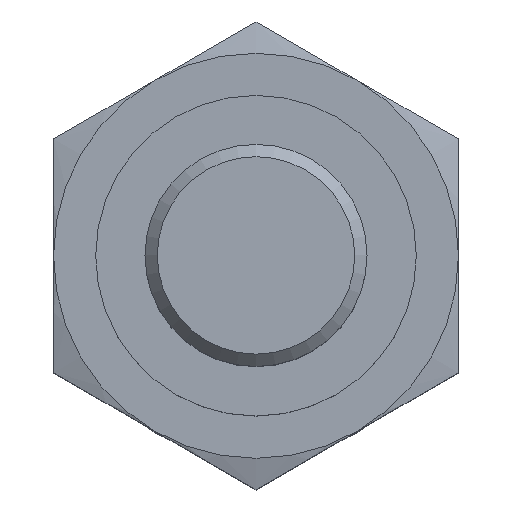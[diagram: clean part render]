
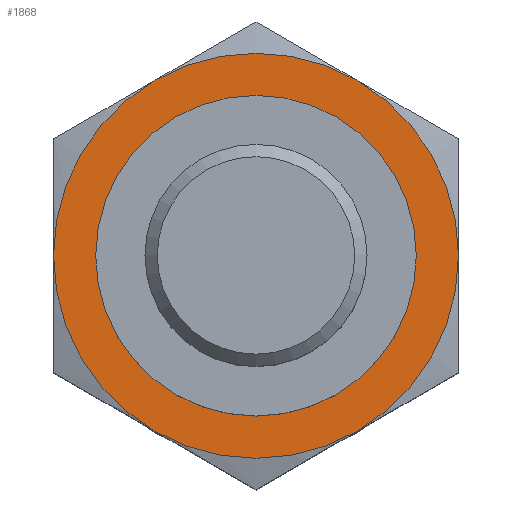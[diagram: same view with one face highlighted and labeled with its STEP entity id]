
A CAD part, top view. The second image highlights one B-rep face of the part: STEP entity #1868.
In plain terms, the highlighted planar face has unit normal (0, 0, 1).
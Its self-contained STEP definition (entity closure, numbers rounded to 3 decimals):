
#334=FACE_BOUND('',#569,.T.);
#429=FACE_OUTER_BOUND('',#568,.T.);
#568=EDGE_LOOP('',(#1219,#1220,#1221,#1222,#1223,#1224));
#569=EDGE_LOOP('',(#1225));
#762=CIRCLE('',#2020,12.);
#763=CIRCLE('',#2021,12.);
#764=CIRCLE('',#2022,12.);
#765=CIRCLE('',#2023,12.);
#766=CIRCLE('',#2024,12.);
#767=CIRCLE('',#2025,12.);
#768=CIRCLE('',#2026,9.5);
#827=VERTEX_POINT('',#2711);
#828=VERTEX_POINT('',#2712);
#829=VERTEX_POINT('',#2714);
#830=VERTEX_POINT('',#2716);
#831=VERTEX_POINT('',#2718);
#832=VERTEX_POINT('',#2720);
#833=VERTEX_POINT('',#2723);
#990=EDGE_CURVE('',#827,#828,#762,.T.);
#991=EDGE_CURVE('',#828,#829,#763,.T.);
#992=EDGE_CURVE('',#829,#830,#764,.T.);
#993=EDGE_CURVE('',#830,#831,#765,.T.);
#994=EDGE_CURVE('',#831,#832,#766,.T.);
#995=EDGE_CURVE('',#832,#827,#767,.T.);
#996=EDGE_CURVE('',#833,#833,#768,.T.);
#1219=ORIENTED_EDGE('',*,*,#990,.T.);
#1220=ORIENTED_EDGE('',*,*,#991,.T.);
#1221=ORIENTED_EDGE('',*,*,#992,.T.);
#1222=ORIENTED_EDGE('',*,*,#993,.T.);
#1223=ORIENTED_EDGE('',*,*,#994,.T.);
#1224=ORIENTED_EDGE('',*,*,#995,.T.);
#1225=ORIENTED_EDGE('',*,*,#996,.T.);
#1665=PLANE('',#2019);
#1868=ADVANCED_FACE('',(#429,#334),#1665,.T.);
#2019=AXIS2_PLACEMENT_3D('',#2710,#2226,#2227);
#2020=AXIS2_PLACEMENT_3D('',#2713,#2228,#2229);
#2021=AXIS2_PLACEMENT_3D('',#2715,#2230,#2231);
#2022=AXIS2_PLACEMENT_3D('',#2717,#2232,#2233);
#2023=AXIS2_PLACEMENT_3D('',#2719,#2234,#2235);
#2024=AXIS2_PLACEMENT_3D('',#2721,#2236,#2237);
#2025=AXIS2_PLACEMENT_3D('',#2722,#2238,#2239);
#2026=AXIS2_PLACEMENT_3D('',#2724,#2240,#2241);
#2226=DIRECTION('center_axis',(0.,0.,1.));
#2227=DIRECTION('ref_axis',(1.,0.,0.));
#2228=DIRECTION('center_axis',(0.,0.,1.));
#2229=DIRECTION('ref_axis',(0.,1.,0.));
#2230=DIRECTION('center_axis',(0.,0.,1.));
#2231=DIRECTION('ref_axis',(0.,1.,0.));
#2232=DIRECTION('center_axis',(0.,0.,1.));
#2233=DIRECTION('ref_axis',(0.,1.,0.));
#2234=DIRECTION('center_axis',(0.,0.,1.));
#2235=DIRECTION('ref_axis',(0.,1.,0.));
#2236=DIRECTION('center_axis',(0.,0.,1.));
#2237=DIRECTION('ref_axis',(0.,1.,0.));
#2238=DIRECTION('center_axis',(0.,0.,1.));
#2239=DIRECTION('ref_axis',(0.,1.,0.));
#2240=DIRECTION('center_axis',(0.,0.,-1.));
#2241=DIRECTION('ref_axis',(0.,1.,0.));
#2710=CARTESIAN_POINT('Origin',(0.,0.,
13.));
#2711=CARTESIAN_POINT('',(6.,10.392,13.));
#2712=CARTESIAN_POINT('',(-6.,10.392,13.));
#2713=CARTESIAN_POINT('Origin',(0.,0.,13.));
#2714=CARTESIAN_POINT('',(-12.,0.,13.));
#2715=CARTESIAN_POINT('Origin',(0.,0.,13.));
#2716=CARTESIAN_POINT('',(-6.,-10.392,13.));
#2717=CARTESIAN_POINT('Origin',(0.,0.,13.));
#2718=CARTESIAN_POINT('',(6.,-10.392,13.));
#2719=CARTESIAN_POINT('Origin',(0.,0.,13.));
#2720=CARTESIAN_POINT('',(12.,0.,13.));
#2721=CARTESIAN_POINT('Origin',(0.,0.,13.));
#2722=CARTESIAN_POINT('Origin',(0.,0.,13.));
#2723=CARTESIAN_POINT('',(0.,9.5,13.));
#2724=CARTESIAN_POINT('Origin',(0.,0.,13.));
